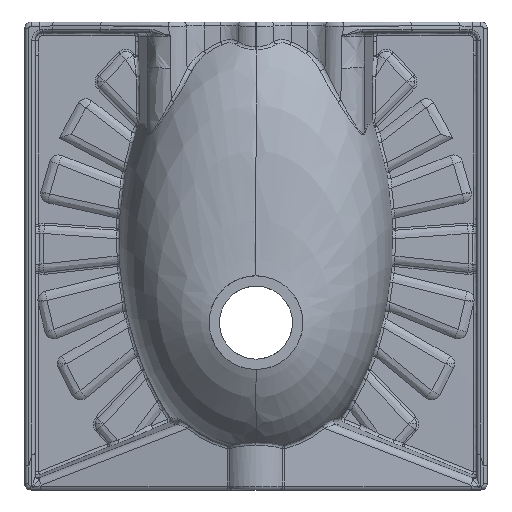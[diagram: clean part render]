
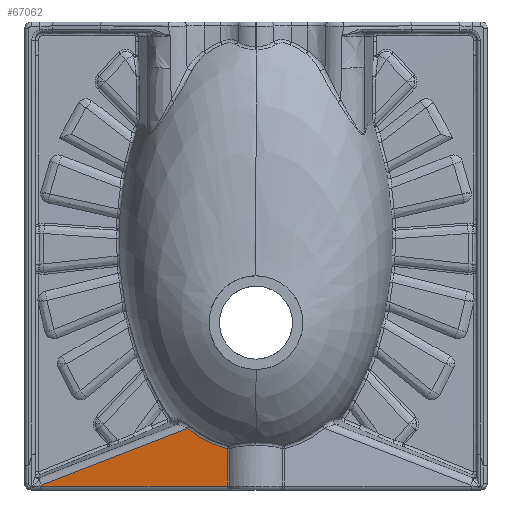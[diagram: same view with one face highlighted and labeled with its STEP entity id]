
A CAD part, front view. The second image highlights one B-rep face of the part: STEP entity #67062.
In plain terms, the highlighted planar face has unit normal (-0.158, -0.988, 0).
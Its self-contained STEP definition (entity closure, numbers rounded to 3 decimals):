
#1890 = B_SPLINE_CURVE_WITH_KNOTS ( 'NONE', 3,
 ( #2924, #86042, #17576, #43840, #10029, #44700, #85608, #78489, #51816, #44272, #30088, #16290 ),
 .UNSPECIFIED., .F., .F.,
 ( 4, 2, 2, 2, 2, 4 ),
 ( 0., 0.014, 0.028, 0.042, 0.05, 0.057 ),
 .UNSPECIFIED. ) ;
#2924 = CARTESIAN_POINT ( 'NONE',  ( -86.169, 18.515, -217.316 ) ) ;
#4358 = DIRECTION ( 'NONE',  ( 0.922, -0.147, 0.357 ) ) ;
#5742 = VECTOR ( 'NONE', #86479, 1000. ) ;
#7552 = ORIENTED_EDGE ( 'NONE', *, *, #23481, .F. ) ;
#9465 = DIRECTION ( 'NONE',  ( -0.988, 0.158, 0. ) ) ;
#9868 = VERTEX_POINT ( 'NONE', #35118 ) ;
#10029 = CARTESIAN_POINT ( 'NONE',  ( -66.881, 15.437, -230.718 ) ) ;
#10766 = LINE ( 'NONE', #30390, #83715 ) ;
#11506 = VERTEX_POINT ( 'NONE', #78959 ) ;
#12799 = VECTOR ( 'NONE', #4358, 1000. ) ;
#12878 = VERTEX_POINT ( 'NONE', #85089 ) ;
#16290 = CARTESIAN_POINT ( 'NONE',  ( -36.4, 10.574, -243.013 ) ) ;
#17576 = CARTESIAN_POINT ( 'NONE',  ( -78.705, 17.324, -223.129 ) ) ;
#20365 = DIRECTION ( 'NONE',  ( 0., 0., -1. ) ) ;
#23481 = EDGE_CURVE ( 'NONE', #12878, #58249, #1890, .T. ) ;
#24653 = ORIENTED_EDGE ( 'NONE', *, *, #68533, .F. ) ;
#24704 = LINE ( 'NONE', #79368, #5742 ) ;
#24845 = CARTESIAN_POINT ( 'NONE',  ( -31.648, 9.816, -196.208 ) ) ;
#26145 = CARTESIAN_POINT ( 'NONE',  ( 0.742, 4.648, -282. ) ) ;
#30088 = CARTESIAN_POINT ( 'NONE',  ( -38.7, 10.941, -242.437 ) ) ;
#30390 = CARTESIAN_POINT ( 'NONE',  ( -272.592, 48.26, -290. ) ) ;
#33655 = ORIENTED_EDGE ( 'NONE', *, *, #64376, .F. ) ;
#33696 = FACE_OUTER_BOUND ( 'NONE', #69070, .T. ) ;
#34139 = CARTESIAN_POINT ( 'NONE',  ( -36.4, 10.574, -243.013 ) ) ;
#35118 = CARTESIAN_POINT ( 'NONE',  ( -36.4, 10.574, -290. ) ) ;
#40368 = LINE ( 'NONE', #41265, #68245 ) ;
#41265 = CARTESIAN_POINT ( 'NONE',  ( -36.4, 10.574, -295. ) ) ;
#43690 = VERTEX_POINT ( 'NONE', #83458 ) ;
#43840 = CARTESIAN_POINT ( 'NONE',  ( -70.899, 16.078, -228.326 ) ) ;
#43918 = ORIENTED_EDGE ( 'NONE', *, *, #69297, .F. ) ;
#44272 = CARTESIAN_POINT ( 'NONE',  ( -40.978, 11.304, -241.788 ) ) ;
#44700 = CARTESIAN_POINT ( 'NONE',  ( -58.598, 14.116, -235.058 ) ) ;
#51816 = CARTESIAN_POINT ( 'NONE',  ( -45.493, 12.025, -240.349 ) ) ;
#55391 = AXIS2_PLACEMENT_3D ( 'NONE', #26145, #87904, #73674 ) ;
#58249 = VERTEX_POINT ( 'NONE', #34139 ) ;
#58656 = LINE ( 'NONE', #24845, #12799 ) ;
#61261 = PLANE ( 'NONE',  #55391 ) ;
#64376 = EDGE_CURVE ( 'NONE', #9868, #43690, #10766, .T. ) ;
#67062 = ADVANCED_FACE ( 'NONE', ( #33696 ), #61261, .T. ) ;
#68245 = VECTOR ( 'NONE', #20365, 1000. ) ;
#68533 = EDGE_CURVE ( 'NONE', #11506, #12878, #58656, .T. ) ;
#69070 = EDGE_LOOP ( 'NONE', ( #43918, #7552, #24653, #70248, #33655 ) ) ;
#69297 = EDGE_CURVE ( 'NONE', #58249, #9868, #40368, .T. ) ;
#70248 = ORIENTED_EDGE ( 'NONE', *, *, #71201, .F. ) ;
#71201 = EDGE_CURVE ( 'NONE', #43690, #11506, #24704, .T. ) ;
#73674 = DIRECTION ( 'NONE',  ( -0.988, 0.158, 0. ) ) ;
#78489 = CARTESIAN_POINT ( 'NONE',  ( -47.733, 12.382, -239.559 ) ) ;
#78959 = CARTESIAN_POINT ( 'NONE',  ( -270.96, 47.999, -288.858 ) ) ;
#79368 = CARTESIAN_POINT ( 'NONE',  ( -250.937, 44.804, -213.46 ) ) ;
#83458 = CARTESIAN_POINT ( 'NONE',  ( -271.264, 48.048, -290. ) ) ;
#83715 = VECTOR ( 'NONE', #9465, 1000. ) ;
#85089 = CARTESIAN_POINT ( 'NONE',  ( -86.169, 18.515, -217.316 ) ) ;
#85608 = CARTESIAN_POINT ( 'NONE',  ( -54.334, 13.435, -237.006 ) ) ;
#86042 = CARTESIAN_POINT ( 'NONE',  ( -82.493, 17.928, -220.323 ) ) ;
#86479 = DIRECTION ( 'NONE',  ( 0.256, -0.041, 0.966 ) ) ;
#87904 = DIRECTION ( 'NONE',  ( -0.158, -0.988, 0. ) ) ;
